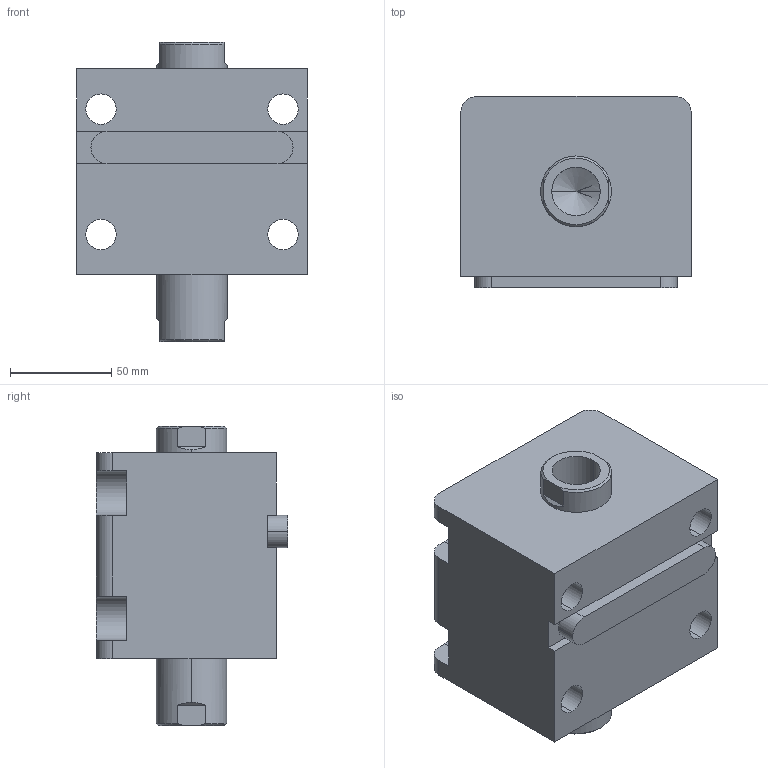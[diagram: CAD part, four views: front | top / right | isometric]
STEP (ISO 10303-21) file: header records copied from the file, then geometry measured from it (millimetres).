
FILE_DESCRIPTION (( 'STEP AP203' ), '1' );
FILE_NAME ('HTB-LW63-20N.STEP', '2019-10-09T08:24:12', ( '微软用户' ), ( '微软中国' ), 'SwSTEP 2.0', 'SolidWorks 2012', '' );
FILE_SCHEMA (( 'CONFIG_CONTROL_DESIGN' ));
Length unit declared in the file: millimetre
Products named in the file (4): HTB-LW63-20N; HTB-LA63-瑩; HTB-LW63-20N活塞杆; HTB-LW63-20掛极
Assembly tree (3 placements, depth 2):
  HTB-LW63-20N
    HTB-LW63-20掛极
    HTB-LW63-20N活塞杆
    HTB-LA63-瑩
Bounding box: 114 x 94.5 x 148 mm (x, y, z)
Volume: 922203.4 mm3; surface area: 129767.7 mm2
Topology: 3 solids, 3 shells, 101 faces, 253 edges, 164 vertices
Faces by surface type: plane 44, cylinder 41, cone 12, torus 4
Entity records: 3467 total; most frequent: CARTESIAN_POINT 576, DIRECTION 549, ORIENTED_EDGE 498, EDGE_CURVE 249, AXIS2_PLACEMENT_3D 209, VERTEX_POINT 164, VECTOR 131, LINE 131
